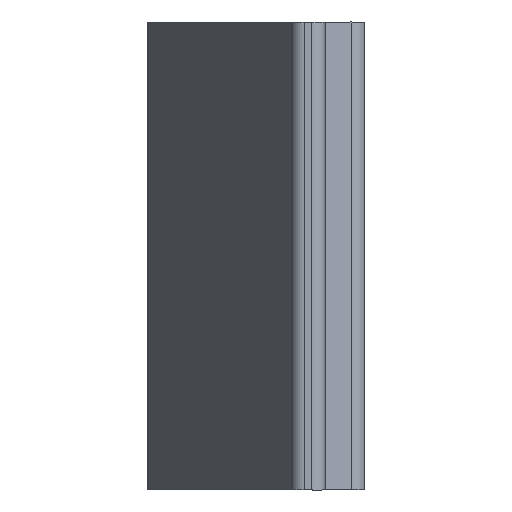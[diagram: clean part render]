
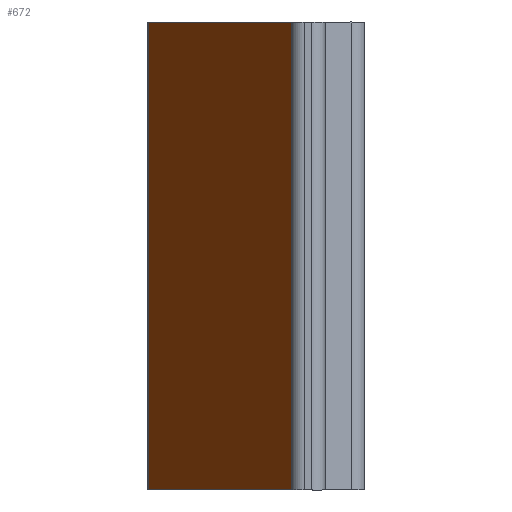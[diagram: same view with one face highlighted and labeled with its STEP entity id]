
A CAD part, left-side view. The second image highlights one B-rep face of the part: STEP entity #672.
In plain terms, the highlighted planar face has unit normal (-0.358, 0.934, 0).
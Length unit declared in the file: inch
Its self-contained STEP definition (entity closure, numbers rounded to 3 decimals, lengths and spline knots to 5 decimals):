
#10 = EDGE_LOOP ( 'NONE', ( #188, #247, #49, #37 ) ) ;
#15 = VECTOR ( 'NONE', #384, 39.37008 ) ;
#37 = ORIENTED_EDGE ( 'NONE', *, *, #594, .T. ) ;
#46 = CARTESIAN_POINT ( 'NONE',  ( -8.16338, 0.78236, -1.75 ) ) ;
#49 = ORIENTED_EDGE ( 'NONE', *, *, #626, .T. ) ;
#67 = CARTESIAN_POINT ( 'NONE',  ( -8.16338, 0.78236, 0. ) ) ;
#71 = VERTEX_POINT ( 'NONE', #106 ) ;
#106 = CARTESIAN_POINT ( 'NONE',  ( -9.56014, 0.24629, 0. ) ) ;
#140 = DIRECTION ( 'NONE',  ( 0., 0., 1. ) ) ;
#158 = DIRECTION ( 'NONE',  ( -0.934, -0.358, 0. ) ) ;
#188 = ORIENTED_EDGE ( 'NONE', *, *, #534, .F. ) ;
#233 = FACE_OUTER_BOUND ( 'NONE', #10, .T. ) ;
#240 = CARTESIAN_POINT ( 'NONE',  ( -8.16338, 0.78236, -1.75 ) ) ;
#247 = ORIENTED_EDGE ( 'NONE', *, *, #689, .F. ) ;
#315 = DIRECTION ( 'NONE',  ( -0.358, 0.934, 0. ) ) ;
#347 = AXIS2_PLACEMENT_3D ( 'NONE', #46, #315, #700 ) ;
#384 = DIRECTION ( 'NONE',  ( -0.934, -0.358, 0. ) ) ;
#393 = LINE ( 'NONE', #468, #15 ) ;
#437 = LINE ( 'NONE', #852, #793 ) ;
#443 = VERTEX_POINT ( 'NONE', #561 ) ;
#453 = VECTOR ( 'NONE', #544, 39.37008 ) ;
#468 = CARTESIAN_POINT ( 'NONE',  ( -8.16338, 0.78236, -1.75 ) ) ;
#473 = VERTEX_POINT ( 'NONE', #644 ) ;
#502 = VERTEX_POINT ( 'NONE', #67 ) ;
#529 = CARTESIAN_POINT ( 'NONE',  ( -8.16338, 0.78236, 0. ) ) ;
#534 = EDGE_CURVE ( 'NONE', #502, #71, #890, .T. ) ;
#544 = DIRECTION ( 'NONE',  ( 0., 0., 1. ) ) ;
#561 = CARTESIAN_POINT ( 'NONE',  ( -9.56014, 0.24629, -1.75 ) ) ;
#594 = EDGE_CURVE ( 'NONE', #443, #71, #437, .T. ) ;
#626 = EDGE_CURVE ( 'NONE', #473, #443, #393, .T. ) ;
#644 = CARTESIAN_POINT ( 'NONE',  ( -8.16338, 0.78236, -1.75 ) ) ;
#666 = VECTOR ( 'NONE', #158, 39.37008 ) ;
#672 = ADVANCED_FACE ( 'NONE', ( #233 ), #755, .T. ) ;
#689 = EDGE_CURVE ( 'NONE', #473, #502, #923, .T. ) ;
#700 = DIRECTION ( 'NONE',  ( -0.934, -0.358, 0. ) ) ;
#755 = PLANE ( 'NONE',  #347 ) ;
#793 = VECTOR ( 'NONE', #140, 39.37008 ) ;
#852 = CARTESIAN_POINT ( 'NONE',  ( -9.56014, 0.24629, -1.75 ) ) ;
#890 = LINE ( 'NONE', #529, #666 ) ;
#923 = LINE ( 'NONE', #240, #453 ) ;
